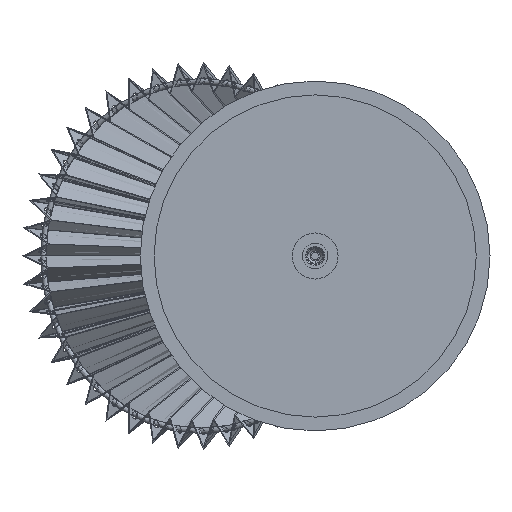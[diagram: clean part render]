
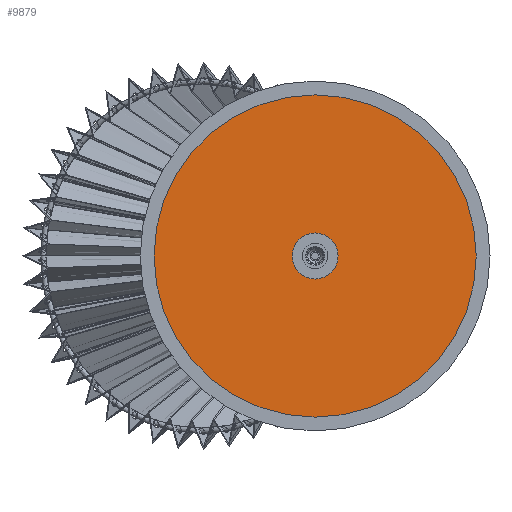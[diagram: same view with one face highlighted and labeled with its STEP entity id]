
A CAD part, front view. The second image highlights one B-rep face of the part: STEP entity #9879.
In plain terms, the highlighted planar face has unit normal (0, -1, 0).
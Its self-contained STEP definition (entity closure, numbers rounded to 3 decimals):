
#1111 = DIRECTION ( 'NONE',  ( 0., 1., 0. ) ) ;
#1213 = AXIS2_PLACEMENT_3D ( 'NONE', #11874, #1333, #3343 ) ;
#1333 = DIRECTION ( 'NONE',  ( 0., 1., 0. ) ) ;
#1658 = EDGE_LOOP ( 'NONE', ( #21656, #3117 ) ) ;
#2263 = CIRCLE ( 'NONE', #11549, 87.5 ) ;
#3117 = ORIENTED_EDGE ( 'NONE', *, *, #7074, .F. ) ;
#3301 = DIRECTION ( 'NONE',  ( 0., 0., 1. ) ) ;
#3343 = DIRECTION ( 'NONE',  ( 0., 0., 1. ) ) ;
#6117 = VERTEX_POINT ( 'NONE', #12731 ) ;
#6245 = FACE_OUTER_BOUND ( 'NONE', #1658, .T. ) ;
#7074 = EDGE_CURVE ( 'NONE', #18391, #24918, #2263, .T. ) ;
#7398 = CARTESIAN_POINT ( 'NONE',  ( 0., 0., -12.5 ) ) ;
#7422 = DIRECTION ( 'NONE',  ( 0., 0., 1. ) ) ;
#7715 = CARTESIAN_POINT ( 'NONE',  ( 0., 0., 0. ) ) ;
#9879 = ADVANCED_FACE ( 'NONE', ( #6245, #14437 ), #14368, .F. ) ;
#11308 = EDGE_LOOP ( 'NONE', ( #18646, #13723 ) ) ;
#11466 = AXIS2_PLACEMENT_3D ( 'NONE', #19887, #13117, #22063 ) ;
#11549 = AXIS2_PLACEMENT_3D ( 'NONE', #14132, #1111, #3301 ) ;
#11874 = CARTESIAN_POINT ( 'NONE',  ( 0., 0., 0. ) ) ;
#12731 = CARTESIAN_POINT ( 'NONE',  ( 0., 0., 12.5 ) ) ;
#13117 = DIRECTION ( 'NONE',  ( 0., 1., 0. ) ) ;
#13507 = CIRCLE ( 'NONE', #11466, 12.5 ) ;
#13723 = ORIENTED_EDGE ( 'NONE', *, *, #18630, .T. ) ;
#14132 = CARTESIAN_POINT ( 'NONE',  ( 0., 0., 0. ) ) ;
#14368 = PLANE ( 'NONE',  #1213 ) ;
#14437 = FACE_BOUND ( 'NONE', #11308, .T. ) ;
#15987 = VERTEX_POINT ( 'NONE', #7398 ) ;
#16392 = CARTESIAN_POINT ( 'NONE',  ( 0., 0., 87.5 ) ) ;
#17065 = AXIS2_PLACEMENT_3D ( 'NONE', #23111, #23289, #27694 ) ;
#18391 = VERTEX_POINT ( 'NONE', #16392 ) ;
#18413 = EDGE_CURVE ( 'NONE', #24918, #18391, #19683, .T. ) ;
#18630 = EDGE_CURVE ( 'NONE', #6117, #15987, #13507, .T. ) ;
#18646 = ORIENTED_EDGE ( 'NONE', *, *, #24445, .T. ) ;
#19683 = CIRCLE ( 'NONE', #23707, 87.5 ) ;
#19887 = CARTESIAN_POINT ( 'NONE',  ( 0., 0., 0. ) ) ;
#21656 = ORIENTED_EDGE ( 'NONE', *, *, #18413, .F. ) ;
#22063 = DIRECTION ( 'NONE',  ( 0., 0., 1. ) ) ;
#22752 = DIRECTION ( 'NONE',  ( 0., 1., 0. ) ) ;
#23111 = CARTESIAN_POINT ( 'NONE',  ( 0., 0., 0. ) ) ;
#23289 = DIRECTION ( 'NONE',  ( 0., 1., 0. ) ) ;
#23707 = AXIS2_PLACEMENT_3D ( 'NONE', #7715, #22752, #7422 ) ;
#24220 = CIRCLE ( 'NONE', #17065, 12.5 ) ;
#24445 = EDGE_CURVE ( 'NONE', #15987, #6117, #24220, .T. ) ;
#24918 = VERTEX_POINT ( 'NONE', #24926 ) ;
#24926 = CARTESIAN_POINT ( 'NONE',  ( 0., 0., -87.5 ) ) ;
#27694 = DIRECTION ( 'NONE',  ( 0., 0., 1. ) ) ;
